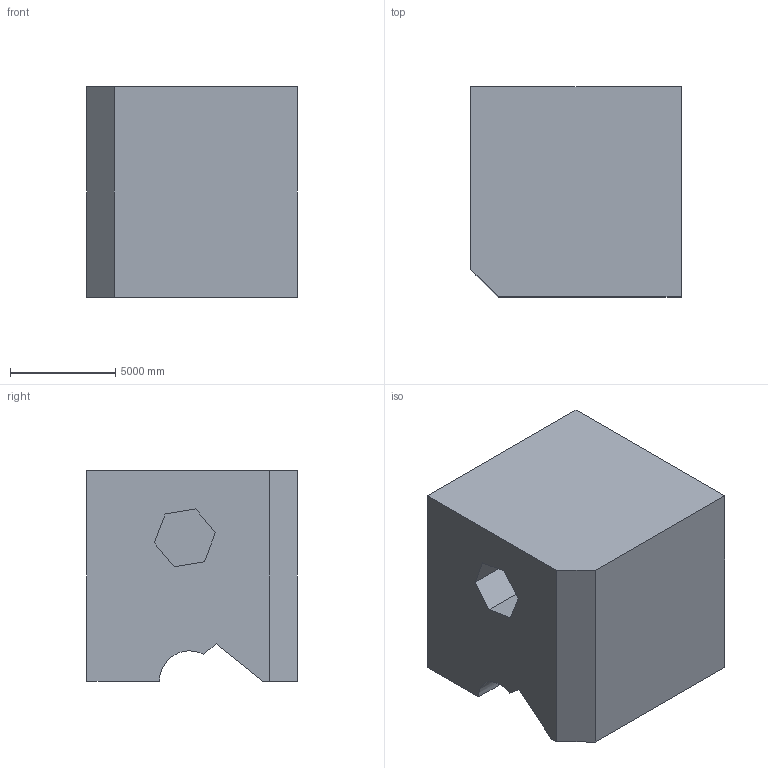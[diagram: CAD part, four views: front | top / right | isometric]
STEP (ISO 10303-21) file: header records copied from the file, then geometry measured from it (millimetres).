
FILE_DESCRIPTION (( 'STEP AP203' ), '1' );
FILE_NAME ('1517.STEP', '2022-08-18T14:59:06', ( 'user' ), ( '' ), 'SwSTEP 2.0', 'SolidWorks 2021', '' );
FILE_SCHEMA (( 'CONFIG_CONTROL_DESIGN' ));
Length unit declared in the file: centimetre
Products named in the file (1): 1517
Bounding box: 10000 x 10000 x 10000 mm (x, y, z)
Volume: 889705361773.9 mm3; surface area: 649019275.4 mm2
Topology: 1 solids, 1 shells, 26 faces, 66 edges, 44 vertices
Faces by surface type: plane 23, cylinder 3
Entity records: 1017 total; most frequent: CARTESIAN_POINT 307, ORIENTED_EDGE 132, DIRECTION 122, EDGE_CURVE 66, LINE 60, VECTOR 60, VERTEX_POINT 44, AXIS2_PLACEMENT_3D 31
